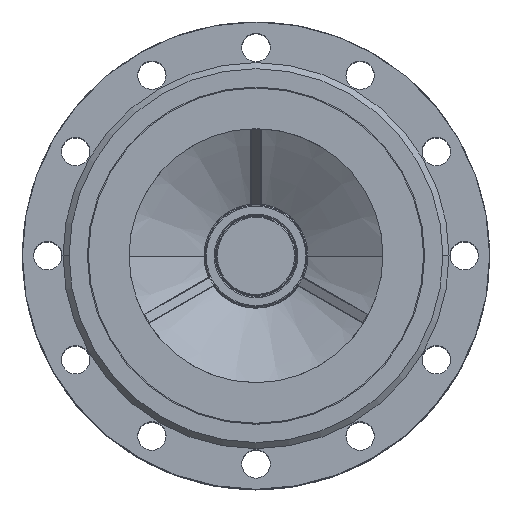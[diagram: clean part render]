
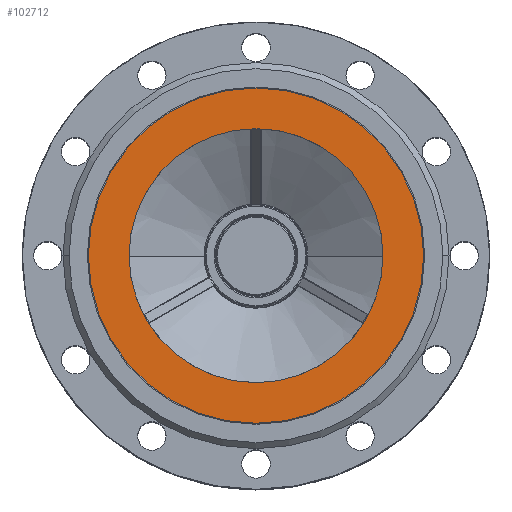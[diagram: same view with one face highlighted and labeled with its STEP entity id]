
A CAD part, top view. The second image highlights one B-rep face of the part: STEP entity #102712.
In plain terms, the highlighted planar face has unit normal (0, 0, 1).
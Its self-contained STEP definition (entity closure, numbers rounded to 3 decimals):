
#7456 = EDGE_CURVE ( 'NONE', #72462, #111690, #96865, .T. ) ;
#12437 = FACE_OUTER_BOUND ( 'NONE', #63796, .T. ) ;
#17959 = CARTESIAN_POINT ( 'NONE',  ( -125., 0., 205. ) ) ;
#19163 = DIRECTION ( 'NONE',  ( 0., 0., -1. ) ) ;
#24178 = EDGE_CURVE ( 'NONE', #92534, #48644, #80693, .T. ) ;
#37934 = ORIENTED_EDGE ( 'NONE', *, *, #7456, .T. ) ;
#48644 = VERTEX_POINT ( 'NONE', #199776 ) ;
#50177 = ORIENTED_EDGE ( 'NONE', *, *, #24178, .F. ) ;
#63435 = DIRECTION ( 'NONE',  ( 0., 0., -1. ) ) ;
#63796 = EDGE_LOOP ( 'NONE', ( #68453, #50177 ) ) ;
#64978 = CARTESIAN_POINT ( 'NONE',  ( 0., 0., 205. ) ) ;
#67316 = DIRECTION ( 'NONE',  ( 0., 0., -1. ) ) ;
#68453 = ORIENTED_EDGE ( 'NONE', *, *, #115742, .F. ) ;
#72462 = VERTEX_POINT ( 'NONE', #143664 ) ;
#75120 = AXIS2_PLACEMENT_3D ( 'NONE', #139558, #19163, #159755 ) ;
#80693 = CIRCLE ( 'NONE', #189793, 165. ) ;
#85190 = DIRECTION ( 'NONE',  ( 1., 0., 0. ) ) ;
#92534 = VERTEX_POINT ( 'NONE', #183116 ) ;
#92807 = AXIS2_PLACEMENT_3D ( 'NONE', #187686, #67316, #207893 ) ;
#95709 = PLANE ( 'NONE',  #193627 ) ;
#96865 = CIRCLE ( 'NONE', #75120, 125. ) ;
#102712 = ADVANCED_FACE ( 'NONE', ( #179085, #12437 ), #95709, .T. ) ;
#111690 = VERTEX_POINT ( 'NONE', #17959 ) ;
#115742 = EDGE_CURVE ( 'NONE', #48644, #92534, #153649, .T. ) ;
#115917 = CARTESIAN_POINT ( 'NONE',  ( 0., 0., 205. ) ) ;
#136130 = DIRECTION ( 'NONE',  ( 1., 0., 0. ) ) ;
#139558 = CARTESIAN_POINT ( 'NONE',  ( 0., 0., 205. ) ) ;
#143664 = CARTESIAN_POINT ( 'NONE',  ( 125., 0., 205. ) ) ;
#145277 = EDGE_LOOP ( 'NONE', ( #37934, #173532 ) ) ;
#153649 = CIRCLE ( 'NONE', #92807, 165. ) ;
#159755 = DIRECTION ( 'NONE',  ( 1., 0., 0. ) ) ;
#173532 = ORIENTED_EDGE ( 'NONE', *, *, #206729, .T. ) ;
#179085 = FACE_BOUND ( 'NONE', #145277, .T. ) ;
#183116 = CARTESIAN_POINT ( 'NONE',  ( -165., 0., 205. ) ) ;
#183797 = CARTESIAN_POINT ( 'NONE',  ( 0., 0., 205. ) ) ;
#187686 = CARTESIAN_POINT ( 'NONE',  ( 0., 0., 205. ) ) ;
#189793 = AXIS2_PLACEMENT_3D ( 'NONE', #64978, #205565, #85190 ) ;
#193627 = AXIS2_PLACEMENT_3D ( 'NONE', #115917, #256468, #136130 ) ;
#199776 = CARTESIAN_POINT ( 'NONE',  ( 165., 0., 205. ) ) ;
#204021 = DIRECTION ( 'NONE',  ( 1., 0., 0. ) ) ;
#205565 = DIRECTION ( 'NONE',  ( 0., 0., -1. ) ) ;
#206729 = EDGE_CURVE ( 'NONE', #111690, #72462, #226097, .T. ) ;
#207893 = DIRECTION ( 'NONE',  ( 1., 0., 0. ) ) ;
#226097 = CIRCLE ( 'NONE', #238396, 125. ) ;
#238396 = AXIS2_PLACEMENT_3D ( 'NONE', #183797, #63435, #204021 ) ;
#256468 = DIRECTION ( 'NONE',  ( 0., 0., 1. ) ) ;
